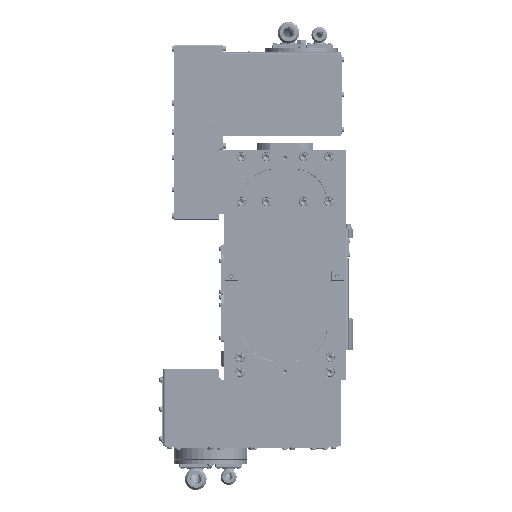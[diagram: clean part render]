
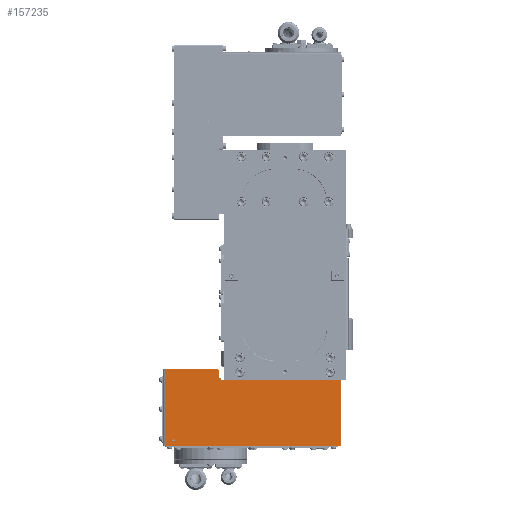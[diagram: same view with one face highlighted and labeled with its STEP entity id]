
A CAD part, front view. The second image highlights one B-rep face of the part: STEP entity #157235.
In plain terms, the highlighted planar face has unit normal (0, -1, 0).
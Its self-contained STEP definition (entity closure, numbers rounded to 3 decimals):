
#6883 = CARTESIAN_POINT ( 'NONE',  ( 124., -176., -225. ) ) ;
#9019 = CARTESIAN_POINT ( 'NONE',  ( -21., -176., 105. ) ) ;
#9471 = CARTESIAN_POINT ( 'NONE',  ( 114., -176., -212.1 ) ) ;
#10219 = ORIENTED_EDGE ( 'NONE', *, *, #61481, .T. ) ;
#15355 = VERTEX_POINT ( 'NONE', #140721 ) ;
#21251 = LINE ( 'NONE', #312483, #308495 ) ;
#25860 = AXIS2_PLACEMENT_3D ( 'NONE', #151483, #87138, #167820 ) ;
#32479 = PLANE ( 'NONE',  #318245 ) ;
#37194 = EDGE_LOOP ( 'NONE', ( #306143, #274841, #182034, #166542, #341857, #10219, #269225, #287380, #77409 ) ) ;
#42234 = CARTESIAN_POINT ( 'NONE',  ( -3., -176., -120. ) ) ;
#45169 = DIRECTION ( 'NONE',  ( 1., 0., 0. ) ) ;
#52661 = VERTEX_POINT ( 'NONE', #339610 ) ;
#59810 = EDGE_CURVE ( 'NONE', #105662, #94075, #140776, .T. ) ;
#61481 = EDGE_CURVE ( 'NONE', #323526, #81217, #311591, .T. ) ;
#67312 = EDGE_CURVE ( 'NONE', #15355, #92446, #21251, .T. ) ;
#75226 = ORIENTED_EDGE ( 'NONE', *, *, #156633, .F. ) ;
#76983 = CARTESIAN_POINT ( 'NONE',  ( 0., -176., -120. ) ) ;
#77409 = ORIENTED_EDGE ( 'NONE', *, *, #67312, .F. ) ;
#81217 = VERTEX_POINT ( 'NONE', #291798 ) ;
#82824 = CARTESIAN_POINT ( 'NONE',  ( 0., -176., -120. ) ) ;
#87138 = DIRECTION ( 'NONE',  ( 0., -1., 0. ) ) ;
#92446 = VERTEX_POINT ( 'NONE', #6883 ) ;
#94075 = VERTEX_POINT ( 'NONE', #104252 ) ;
#95132 = DIRECTION ( 'NONE',  ( 0., 0., -1. ) ) ;
#96855 = DIRECTION ( 'NONE',  ( 0., 0., -1. ) ) ;
#98485 = DIRECTION ( 'NONE',  ( 0., 0., -1. ) ) ;
#100291 = DIRECTION ( 'NONE',  ( 0., -1., 0. ) ) ;
#104252 = CARTESIAN_POINT ( 'NONE',  ( 0., -176., 105. ) ) ;
#105662 = VERTEX_POINT ( 'NONE', #76983 ) ;
#119728 = LINE ( 'NONE', #149530, #124789 ) ;
#122484 = CARTESIAN_POINT ( 'NONE',  ( -21., -176., -225. ) ) ;
#124789 = VECTOR ( 'NONE', #95132, 1000. ) ;
#128544 = EDGE_CURVE ( 'NONE', #105662, #262728, #248143, .T. ) ;
#131231 = CARTESIAN_POINT ( 'NONE',  ( 6., -176., -125. ) ) ;
#137886 = LINE ( 'NONE', #193888, #142520 ) ;
#140721 = CARTESIAN_POINT ( 'NONE',  ( 124., -176., 105. ) ) ;
#140776 = LINE ( 'NONE', #82824, #322951 ) ;
#141299 = CARTESIAN_POINT ( 'NONE',  ( 114., -176., -210. ) ) ;
#142520 = VECTOR ( 'NONE', #244884, 1000. ) ;
#149530 = CARTESIAN_POINT ( 'NONE',  ( -3., -176., -125. ) ) ;
#150478 = CARTESIAN_POINT ( 'NONE',  ( -21., -176., -225. ) ) ;
#151474 = EDGE_CURVE ( 'NONE', #237776, #92446, #259200, .T. ) ;
#151483 = CARTESIAN_POINT ( 'NONE',  ( -19., -176., -127. ) ) ;
#156633 = EDGE_CURVE ( 'NONE', #217919, #335368, #233489, .T. ) ;
#157235 = ADVANCED_FACE ( 'NONE', ( #241385, #213301 ), #32479, .T. ) ;
#158055 = ORIENTED_EDGE ( 'NONE', *, *, #160869, .F. ) ;
#160607 = DIRECTION ( 'NONE',  ( 0., 0., -1. ) ) ;
#160869 = EDGE_CURVE ( 'NONE', #335368, #217919, #162967, .T. ) ;
#162967 = CIRCLE ( 'NONE', #308749, 2.1 ) ;
#166542 = ORIENTED_EDGE ( 'NONE', *, *, #173416, .T. ) ;
#167820 = DIRECTION ( 'NONE',  ( 0., 0., -1. ) ) ;
#172076 = DIRECTION ( 'NONE',  ( 1., 0., 0. ) ) ;
#173416 = EDGE_CURVE ( 'NONE', #262728, #52661, #119728, .T. ) ;
#174561 = EDGE_CURVE ( 'NONE', #94075, #15355, #224743, .T. ) ;
#182034 = ORIENTED_EDGE ( 'NONE', *, *, #128544, .T. ) ;
#183747 = DIRECTION ( 'NONE',  ( -1., 0., 0. ) ) ;
#188631 = DIRECTION ( 'NONE',  ( 0., 0., -1. ) ) ;
#190325 = CARTESIAN_POINT ( 'NONE',  ( 114., -176., -210. ) ) ;
#192095 = DIRECTION ( 'NONE',  ( 0., -1., 0. ) ) ;
#193888 = CARTESIAN_POINT ( 'NONE',  ( -21., -176., 105. ) ) ;
#203351 = VECTOR ( 'NONE', #45169, 1000. ) ;
#209928 = EDGE_CURVE ( 'NONE', #52661, #323526, #215304, .T. ) ;
#213301 = FACE_BOUND ( 'NONE', #250033, .T. ) ;
#215304 = LINE ( 'NONE', #131231, #330186 ) ;
#217919 = VERTEX_POINT ( 'NONE', #9471 ) ;
#224743 = LINE ( 'NONE', #9019, #292753 ) ;
#233489 = CIRCLE ( 'NONE', #317267, 2.1 ) ;
#237776 = VERTEX_POINT ( 'NONE', #122484 ) ;
#241385 = FACE_OUTER_BOUND ( 'NONE', #37194, .T. ) ;
#244884 = DIRECTION ( 'NONE',  ( 0., 0., -1. ) ) ;
#247784 = DIRECTION ( 'NONE',  ( 0., 0., 1. ) ) ;
#248143 = LINE ( 'NONE', #310670, #286080 ) ;
#250033 = EDGE_LOOP ( 'NONE', ( #75226, #158055 ) ) ;
#256330 = DIRECTION ( 'NONE',  ( -1., 0., 0. ) ) ;
#259200 = LINE ( 'NONE', #150478, #203351 ) ;
#262728 = VERTEX_POINT ( 'NONE', #42234 ) ;
#265983 = CARTESIAN_POINT ( 'NONE',  ( -21., -176., 105. ) ) ;
#269225 = ORIENTED_EDGE ( 'NONE', *, *, #319102, .T. ) ;
#274841 = ORIENTED_EDGE ( 'NONE', *, *, #59810, .F. ) ;
#279465 = CARTESIAN_POINT ( 'NONE',  ( -19., -176., -125. ) ) ;
#286080 = VECTOR ( 'NONE', #256330, 1000. ) ;
#287380 = ORIENTED_EDGE ( 'NONE', *, *, #151474, .T. ) ;
#291798 = CARTESIAN_POINT ( 'NONE',  ( -21., -176., -127. ) ) ;
#292753 = VECTOR ( 'NONE', #172076, 1000. ) ;
#306143 = ORIENTED_EDGE ( 'NONE', *, *, #174561, .F. ) ;
#308495 = VECTOR ( 'NONE', #98485, 1000. ) ;
#308749 = AXIS2_PLACEMENT_3D ( 'NONE', #141299, #100291, #96855 ) ;
#310670 = CARTESIAN_POINT ( 'NONE',  ( 359.981, -176., -120. ) ) ;
#311591 = CIRCLE ( 'NONE', #25860, 2. ) ;
#312483 = CARTESIAN_POINT ( 'NONE',  ( 124., -176., 105. ) ) ;
#315506 = CARTESIAN_POINT ( 'NONE',  ( 114., -176., -207.9 ) ) ;
#317267 = AXIS2_PLACEMENT_3D ( 'NONE', #190325, #325362, #160607 ) ;
#318245 = AXIS2_PLACEMENT_3D ( 'NONE', #265983, #192095, #188631 ) ;
#319102 = EDGE_CURVE ( 'NONE', #81217, #237776, #137886, .T. ) ;
#322951 = VECTOR ( 'NONE', #247784, 1000. ) ;
#323526 = VERTEX_POINT ( 'NONE', #279465 ) ;
#325362 = DIRECTION ( 'NONE',  ( 0., -1., 0. ) ) ;
#330186 = VECTOR ( 'NONE', #183747, 1000. ) ;
#335368 = VERTEX_POINT ( 'NONE', #315506 ) ;
#339610 = CARTESIAN_POINT ( 'NONE',  ( -3., -176., -125. ) ) ;
#341857 = ORIENTED_EDGE ( 'NONE', *, *, #209928, .T. ) ;
